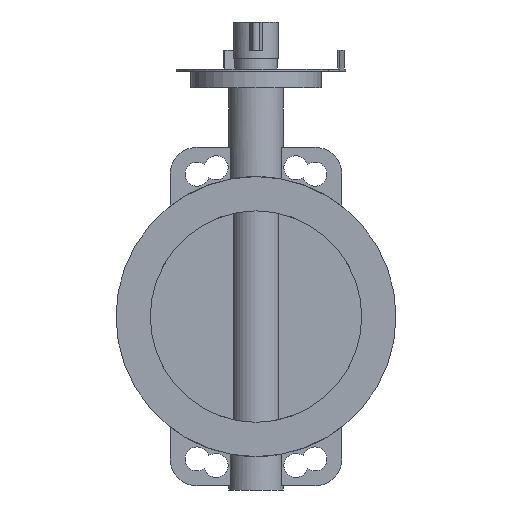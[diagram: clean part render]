
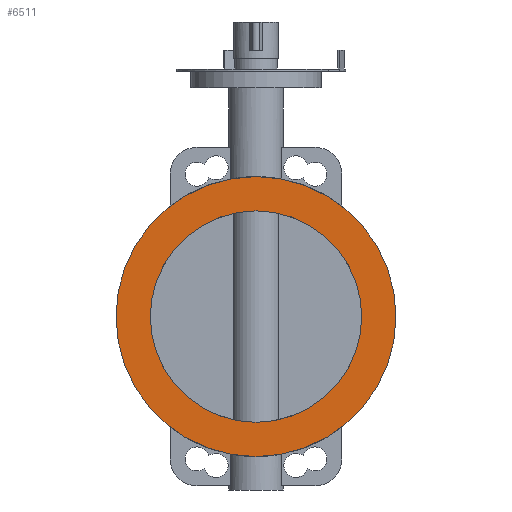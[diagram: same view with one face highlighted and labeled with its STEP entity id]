
A CAD part, left-side view. The second image highlights one B-rep face of the part: STEP entity #6511.
In plain terms, the highlighted planar face has unit normal (-1, 0, 0).
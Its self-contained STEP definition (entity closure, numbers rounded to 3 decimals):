
#6511=ADVANCED_FACE('',(#13097,#13099),#13101,.F.);
#13097=FACE_BOUND('',#13098,.T.);
#13098=EDGE_LOOP('',(#18461));
#13099=FACE_BOUND('',#13100,.T.);
#13100=EDGE_LOOP('',(#18462));
#13101=PLANE('',#13102);
#13102=AXIS2_PLACEMENT_3D('',#13103,#13104,#13105);
#13103=CARTESIAN_POINT('',(-30.,0.,0.));
#13104=DIRECTION('',(1.,0.,0.));
#13105=DIRECTION('',(0.,1.,0.));
#18461=ORIENTED_EDGE('',*,*,#21236,.F.);
#18462=ORIENTED_EDGE('',*,*,#21671,.T.);
#21236=EDGE_CURVE('',#25084,#25084,#25085,.T.);
#21671=EDGE_CURVE('',#25720,#25720,#25721,.T.);
#25084=VERTEX_POINT('',#34067);
#25085=CIRCLE('',#34068,134.);
#25720=VERTEX_POINT('',#35890);
#25721=CIRCLE('',#35891,101.2);
#34067=CARTESIAN_POINT('',(-30.,134.,0.));
#34068=AXIS2_PLACEMENT_3D('',#34069,#34070,#34071);
#34069=CARTESIAN_POINT('',(-30.,0.,0.));
#34070=DIRECTION('',(1.,0.,0.));
#34071=DIRECTION('',(0.,1.,0.));
#35890=CARTESIAN_POINT('',(-30.,101.2,0.));
#35891=AXIS2_PLACEMENT_3D('',#35892,#35893,#35894);
#35892=CARTESIAN_POINT('',(-30.,0.,0.));
#35893=DIRECTION('',(1.,0.,0.));
#35894=DIRECTION('',(0.,1.,0.));
